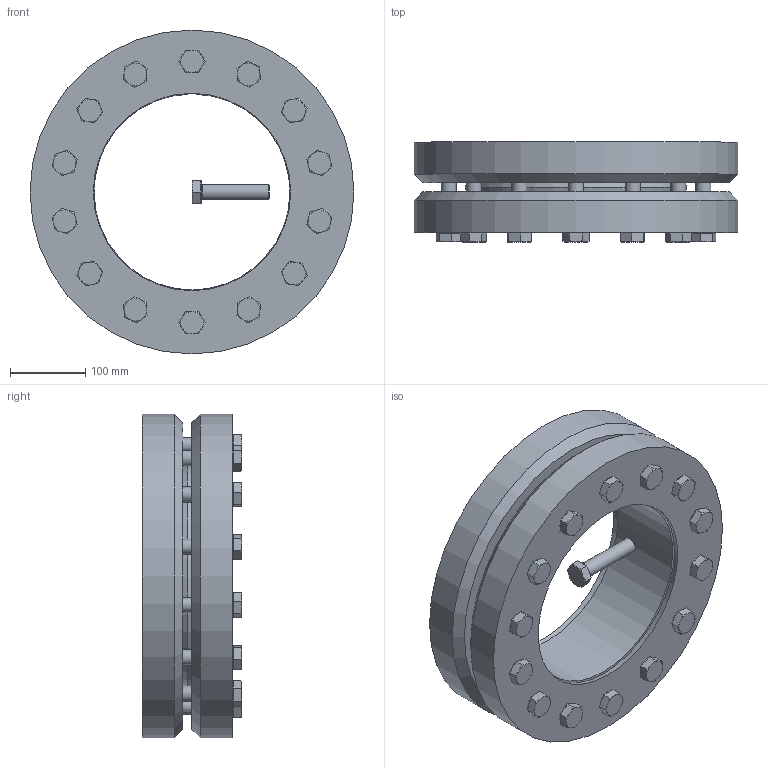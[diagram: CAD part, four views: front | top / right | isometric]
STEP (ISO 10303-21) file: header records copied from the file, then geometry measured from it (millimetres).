
FILE_DESCRIPTION( ( 'Unknown' ), '1' );
FILE_NAME( 'C:/Dokumente und Einstellungen/Sven/Desktop/homepage/cad - homepage/KBS19/KBS 19 - 260 x 430.stp', 'Unknown', ( 'Unknown' ), ( 'Unknown' ), 'XStep 1.0', 'Unknown', ' ' );
FILE_SCHEMA( ( 'automotive_design' ) );
Length unit declared in the file: millimetre
Products named in the file (3): Assem1; KBS 19 - 260 x 430; ISO 4017 - M20 x 90-N
Bounding box: 430 x 132.5 x 430 mm (x, y, z)
Volume: 19420549.2 mm3; surface area: 1450364.5 mm2
Topology: 17 solids, 17 shells, 477 faces, 1116 edges, 688 vertices
Faces by surface type: plane 253, cone 117, cylinder 92, torus 15
Full cylindrical faces by diameter (mm): 20 x71, 30 x15, 430 x4
Entity records: 2564 total; most frequent: CARTESIAN_POINT 431, DIRECTION 410, ORIENTED_EDGE 300, AXIS2_PLACEMENT_3D 184, EDGE_LOOP 175, EDGE_CURVE 150, VERTEX_POINT 117, FACE_OUTER_BOUND 109
